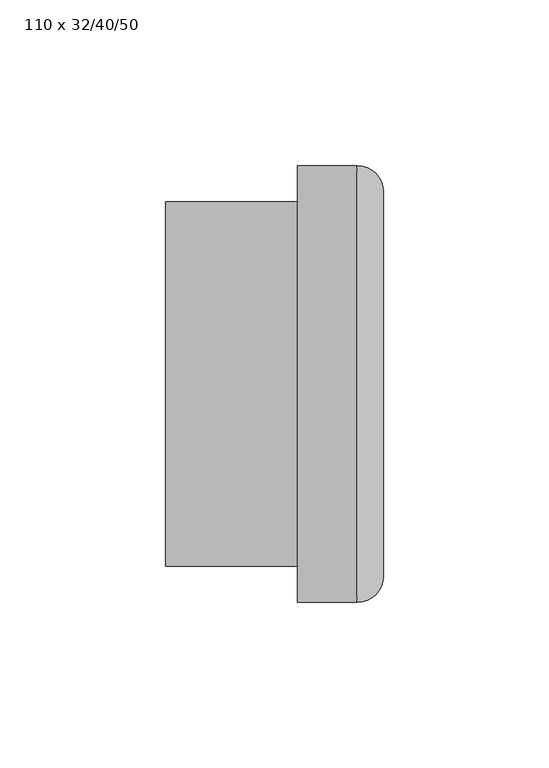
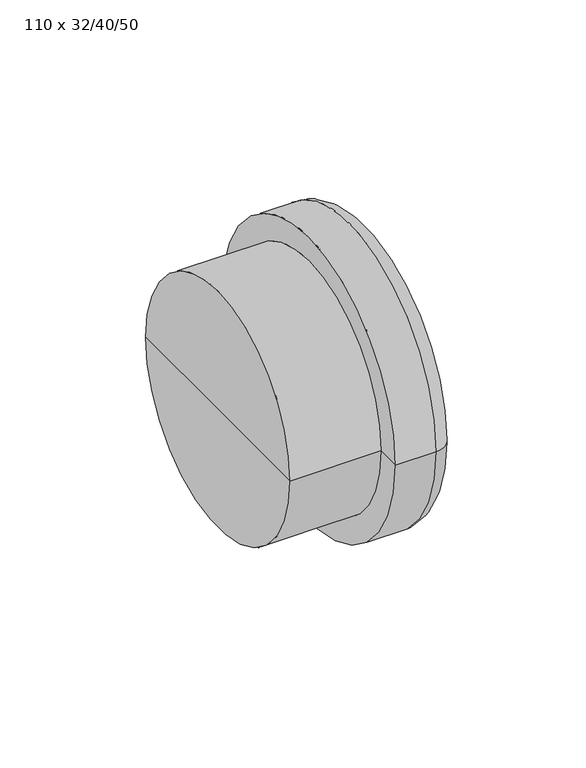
"""IFC4 building model written with IfcOpenShell, lengths in millimetres: pipe fitting geometry, AliaxisFR_Friaphon_MultipleConnector_FR : 110 x 32/40/50."""

from ifc_helpers import new_model, si_unit, point, frame, origin, place, context, project, spatial, polyline, circle_curve, ellipse_curve, trimmed, source, transform, mapped, element, save
from ifc_brep_helpers import plane_surface, cylinder_surface, revolved_surface, advanced_brep


def pipe_fitting_110_x_32_40_50_81a81d71(model_context):
    return source(origin(), model_context, "Body", "AdvancedBrep", [
        advanced_brep(
        [(0.0, -55.0, 0.0), (0.0, 55.0, 0.0), (40.0, 55.0, 0.0), (40.0, -55.0, 0.0), (0.0, 0.0, 0.0), (66.0, -58.0, 0.0), (66.0, 58.0, 0.0), (66.0, 0.0, 0.0), (66.0, -1.3974172, -21.7189424), (66.0, -41.3974172, -21.7189424), (66.0, 40.207735, -18.6898785), (66.0, 8.207735, -18.6898785), (66.0, -25.0, 25.0), (66.0, 25.0, 25.0), (58.0, -66.0, 0.0), (58.0, 66.0, 0.0), (40.0, -66.0, 0.0), (40.0, 66.0, 0.0), (26.0, -1.3974172, -21.7189424), (26.0, -41.3974172, -21.7189424), (26.0, 40.207735, -18.6898785), (26.0, 8.207735, -18.6898785), (26.0, 25.0, 25.0), (26.0, -25.0, 25.0)],
        [
            (0, 1, circle_curve(frame((0.0, 0.0, 0.0), z_axis=(1.0, 0.0, 0.0), x_axis=(0.0, 1.0, 0.0)), 55.0)),
            (1, 2),
            (2, 3, circle_curve(frame((40.0, 0.0, 0.0), z_axis=(-1.0, 0.0, 0.0), x_axis=(0.0, 1.0, 0.0)), 55.0)),
            (3, 0),
            (1, 0, circle_curve(frame((0.0, 0.0, 0.0), z_axis=(1.0, 0.0, 0.0), x_axis=(0.0, 1.0, 0.0)), 55.0)),
            (3, 2, circle_curve(frame((40.0, 0.0, 0.0), z_axis=(-1.0, 0.0, 0.0), x_axis=(0.0, 1.0, 0.0)), 55.0)),
            (0, 4),
            (4, 1),
            (5, 6, circle_curve(frame((66.0, 0.0, 0.0), z_axis=(1.0, 0.0, 0.0), x_axis=(0.0, 1.0, 0.0)), 58.0)),
            (6, 7),
            (7, 5),
            (8, 9, circle_curve(frame((66.0, -21.3974172, -21.7189424), z_axis=(-1.0, 0.0, 0.0), x_axis=(0.0, -1.0, 0.0)), 20.0)),
            (9, 8, circle_curve(frame((66.0, -21.3974172, -21.7189424), z_axis=(-1.0, 0.0, 0.0), x_axis=(0.0, -1.0, 0.0)), 20.0)),
            (10, 11, circle_curve(frame((66.0, 24.207735, -18.6898785), z_axis=(-1.0, 0.0, 0.0), x_axis=(0.0, -1.0, 0.0)), 16.0)),
            (11, 10, circle_curve(frame((66.0, 24.207735, -18.6898785), z_axis=(-1.0, 0.0, 0.0), x_axis=(0.0, -1.0, 0.0)), 16.0)),
            (6, 5, circle_curve(frame((66.0, 0.0, 0.0), z_axis=(1.0, 0.0, 0.0), x_axis=(0.0, 1.0, 0.0)), 58.0)),
            (7, 12, circle_curve(frame((66.0, 0.0, 25.0), z_axis=(-1.0, 0.0, 0.0), x_axis=(0.0, -1.0, 0.0)), 25.0)),
            (12, 13, circle_curve(frame((66.0, 0.0, 25.0), z_axis=(-1.0, 0.0, 0.0), x_axis=(0.0, -1.0, 0.0)), 25.0)),
            (13, 7, circle_curve(frame((66.0, 0.0, 25.0), z_axis=(-1.0, 0.0, 0.0), x_axis=(0.0, -1.0, 0.0)), 25.0)),
            (5, 14, circle_curve(frame((58.0, -58.0, 0.0), z_axis=(0.0, 0.0, -1.0), x_axis=(1.0, 0.0, 0.0)), 8.0)),
            (14, 15, circle_curve(frame((58.0, 0.0, 0.0), z_axis=(1.0, 0.0, 0.0), x_axis=(0.0, 1.0, 0.0)), 66.0)),
            (15, 6, circle_curve(frame((58.0, 58.0, 0.0), z_axis=(0.0, 0.0, -1.0), x_axis=(1.0, 0.0, 0.0)), 8.0)),
            (15, 14, circle_curve(frame((58.0, 0.0, 0.0), z_axis=(1.0, 0.0, 0.0), x_axis=(0.0, 1.0, 0.0)), 66.0)),
            (14, 16),
            (16, 17, circle_curve(frame((40.0, 0.0, 0.0), z_axis=(1.0, 0.0, 0.0), x_axis=(0.0, 1.0, 0.0)), 66.0)),
            (17, 15),
            (17, 16, circle_curve(frame((40.0, 0.0, 0.0), z_axis=(1.0, 0.0, 0.0), x_axis=(0.0, 1.0, 0.0)), 66.0)),
            (2, 17),
            (16, 3),
            (18, 19, circle_curve(frame((26.0, -21.3974172, -21.7189424), z_axis=(1.0, 0.0, 0.0), x_axis=(0.0, -1.0, 0.0)), 20.0)),
            (19, 18, circle_curve(frame((26.0, -21.3974172, -21.7189424), z_axis=(1.0, 0.0, 0.0), x_axis=(0.0, -1.0, 0.0)), 20.0)),
            (20, 21, circle_curve(frame((26.0, 24.207735, -18.6898785), z_axis=(1.0, 0.0, 0.0), x_axis=(0.0, -1.0, 0.0)), 16.0)),
            (21, 20, circle_curve(frame((26.0, 24.207735, -18.6898785), z_axis=(1.0, 0.0, 0.0), x_axis=(0.0, -1.0, 0.0)), 16.0)),
            (22, 23, circle_curve(frame((26.0, 0.0, 25.0), z_axis=(1.0, 0.0, 0.0), x_axis=(0.0, -1.0, 0.0)), 25.0)),
            (23, 22, circle_curve(frame((26.0, 0.0, 25.0), z_axis=(1.0, 0.0, 0.0), x_axis=(0.0, -1.0, 0.0)), 25.0)),
            (19, 9),
            (8, 18),
            (21, 11),
            (10, 20),
            (23, 12),
            (13, 22),
        ],
        [
            cylinder_surface(frame((-70.0, 0.0, 0.0), z_axis=(-1.0, 0.0, 0.0), x_axis=(0.0, 1.0, 0.0)), 55.0),
            plane_surface(frame((0.0, 0.0, 0.0), z_axis=(-1.0, 0.0, 0.0), x_axis=(0.0, 1.0, 0.0))),
            plane_surface(frame((66.0, 0.0, 0.0), z_axis=(1.0, 0.0, 0.0), x_axis=(0.0, 1.0, 0.0))),
            revolved_surface(trimmed(ellipse_curve(frame((58.0, 58.0, 0.0), z_axis=(0.0, 0.0, 1.0), x_axis=(1.0, 0.0, 0.0)), 8.0, 8.0), [point((66.0, 58.0, 0.0))], [point((58.0, 66.0, 0.0))], True, "CARTESIAN"), (-70.0, 0.0, 0.0), (-1.0, 0.0, 0.0)),
            cylinder_surface(frame((-70.0, 0.0, 0.0), z_axis=(-1.0, 0.0, 0.0), x_axis=(0.0, 1.0, 0.0)), 66.0),
            plane_surface(frame((40.0, 0.0, 0.0), z_axis=(-1.0, 0.0, 0.0), x_axis=(0.0, 1.0, 0.0))),
            plane_surface(frame((26.0, -41.3974172, -21.7189424), z_axis=(1.0, 0.0, 0.0), x_axis=(0.0, 0.0, 1.0))),
            revolved_surface(polyline([(26.0, -41.3974172, -21.7189424), (66.0, -41.3974172, -21.7189424)]), (66.0, -21.3974172, -21.7189424), (-1.0, 0.0, 0.0)),
            revolved_surface(polyline([(26.0, 8.207735, -18.6898785), (66.0, 8.207735, -18.6898785)]), (66.0, 24.207735, -18.6898785), (-1.0, 0.0, 0.0)),
            revolved_surface(polyline([(26.0, -25.0, 25.0), (66.0, -25.0, 25.0)]), (66.0, 0.0, 25.0), (-1.0, 0.0, 0.0)),
        ],
        [
            (0, [[1, 2, 3, 4]]),
            (0, [[-2, 5, -4, 6]]),
            (1, [[-1, 7, 8]]),
            (1, [[-5, -8, -7]]),
            (2, [[9, 10, 11], [12, 13], [14, 15]]),
            (2, [[-10, 16, -11, 17, 18, 19]]),
            (3, [[-9, 20, 21, 22]]),
            (3, [[-16, -22, 23, -20]]),
            (4, [[-21, 24, 25, 26]]),
            (4, [[-23, -26, 27, -24]]),
            (5, [[-3, 28, -25, 29]]),
            (5, [[-6, -29, -27, -28]]),
            (6, [[30, 31]]),
            (6, [[32, 33]]),
            (6, [[34, 35]]),
            (7, [[-31, 36, -12, 37]]),
            (7, [[-30, -37, -13, -36]]),
            (8, [[-33, 38, -14, 39]]),
            (8, [[-32, -39, -15, -38]]),
            (9, [[-35, 40, -17, -19, 41]]),
            (9, [[-34, -41, -18, -40]]),
        ],
    ),
    ])


if __name__ == "__main__":
    model = new_model("IFC4")
    model_context = context("Model", 3, world=origin())
    ifc_project = project(units=[si_unit("LENGTHUNIT", "METRE", prefix="MILLI")], contexts=[model_context])
    site = spatial("IfcSite", under=ifc_project)
    building = spatial("IfcBuilding", under=site)
    placement = place(None, origin())
    pipe_fitting_110_x_32_40_50_shape = pipe_fitting_110_x_32_40_50_81a81d71(model_context)
    element("IfcPipeFitting", 1, ObjectType="AliaxisFR_Friaphon_MultipleConnector_FR : 110 x 32/40/50", at=placement, inside=building, context=model_context, shape_type="MappedRepresentation", body=[
        mapped(pipe_fitting_110_x_32_40_50_shape, transform((0.0, 0.0, 0.0), x_axis=(1.0, 0.0, 0.0), y_axis=(0.0, 1.0, 0.0), z_axis=(0.0, 0.0, 1.0))),
    ])
    save(model, "model.ifc")
